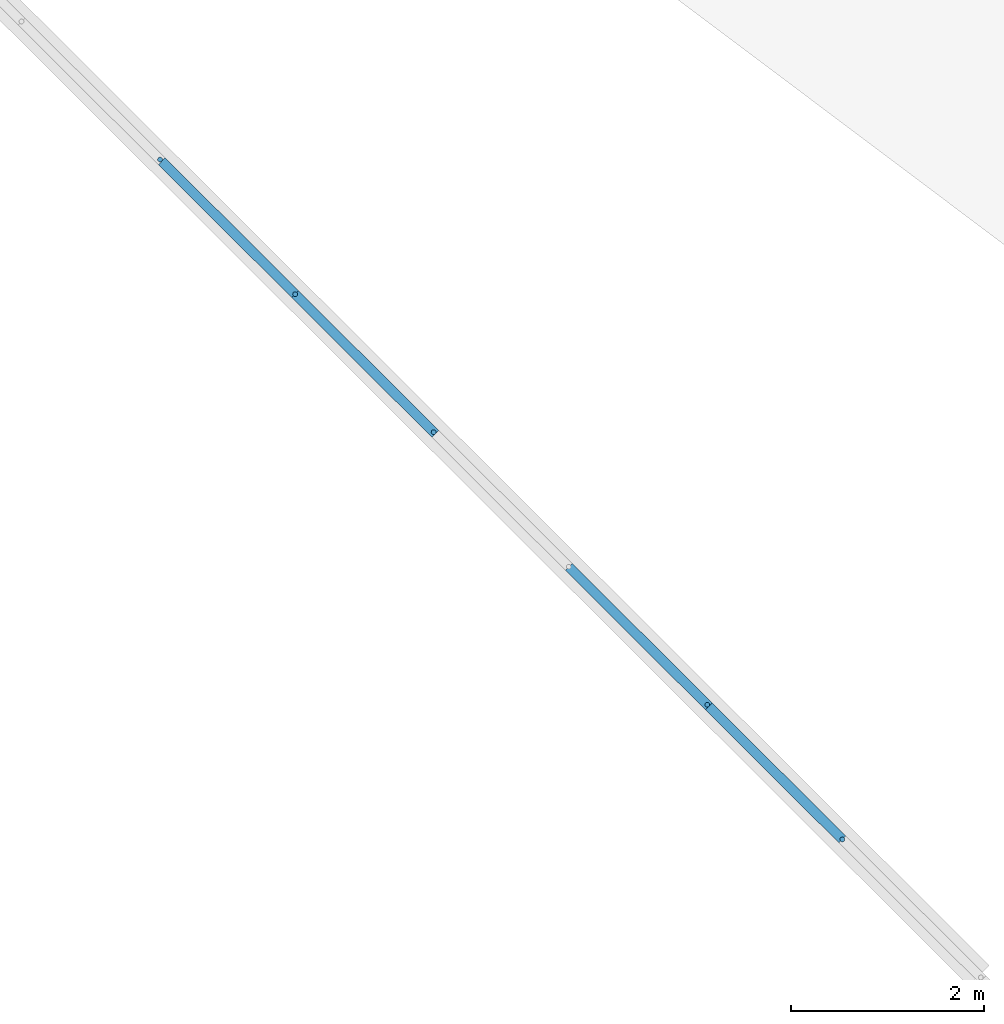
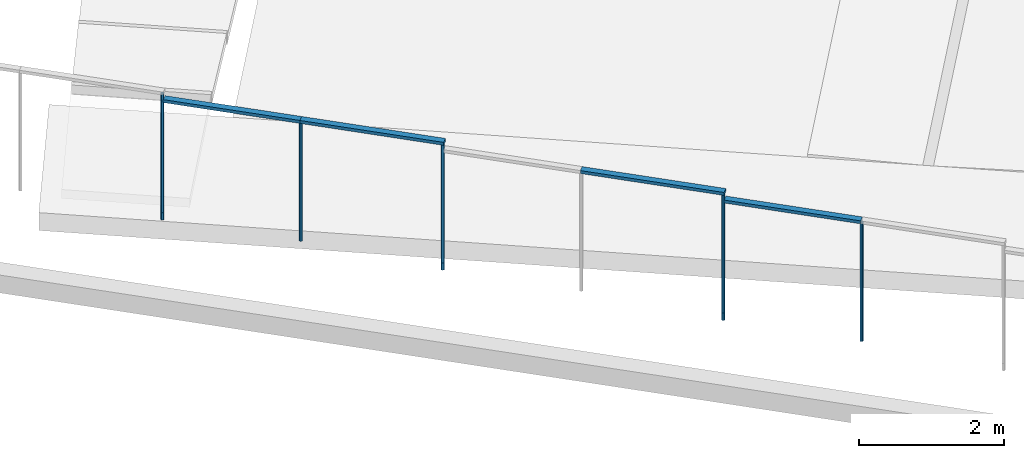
# One storey, part 11 of 33: 12 members, 4 elements without a shape of their own.
"""IFC2X3 building model written with IfcOpenShell, lengths in metres."""

from ifc_helpers import new_model, entity, si_unit, converted_unit, derived_unit, direction, frame, frame_2d, origin, origin_2d_with_axis, place, context, subcontext, project, spatial, rectangle, circle, extrude, source, transform, mapped, material, type_object, type_shapes, element, aggregate, save


model = new_model("IFC2X3")

# Units and contexts
model_context = context("Model", 3, precision=1e-05, world=origin(), true_north=direction((6.123031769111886e-17, 1.0)))
body_context = subcontext(model_context, "Body", "Model", "MODEL_VIEW")
ifc_project = project(units=[si_unit("LENGTHUNIT", "METRE"), si_unit("AREAUNIT", "SQUARE_METRE"), si_unit("VOLUMEUNIT", "CUBIC_METRE"), converted_unit("PLANEANGLEUNIT", "DEGREE", entity("IfcRatioMeasure", 0.017453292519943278), si_unit("PLANEANGLEUNIT", "RADIAN"), dimensions=[0, 0, 0, 0, 0, 0, 0]), si_unit("MASSUNIT", "GRAM", prefix="KILO"), derived_unit("MASSDENSITYUNIT", [(si_unit("MASSUNIT", "GRAM", prefix="KILO"), 1), (si_unit("LENGTHUNIT", "METRE"), -3)]), derived_unit("IONCONCENTRATIONUNIT", [(si_unit("MASSUNIT", "GRAM", prefix="KILO"), 1), (si_unit("LENGTHUNIT", "METRE"), -3)]), derived_unit("MOMENTOFINERTIAUNIT", [(si_unit("LENGTHUNIT", "METRE"), 4)]), si_unit("TIMEUNIT", "SECOND"), si_unit("FREQUENCYUNIT", "HERTZ"), si_unit("THERMODYNAMICTEMPERATUREUNIT", "DEGREE_CELSIUS"), derived_unit("THERMALTRANSMITTANCEUNIT", [(si_unit("MASSUNIT", "GRAM", prefix="KILO"), 1), (si_unit("THERMODYNAMICTEMPERATUREUNIT", "KELVIN"), -1), (si_unit("TIMEUNIT", "SECOND"), -3)]), derived_unit("THERMALCONDUCTANCEUNIT", [(si_unit("MASSUNIT", "GRAM", prefix="KILO"), 1), (si_unit("THERMODYNAMICTEMPERATUREUNIT", "KELVIN"), -1), (si_unit("TIMEUNIT", "SECOND"), -3), (si_unit("LENGTHUNIT", "METRE"), 1)]), derived_unit("VOLUMETRICFLOWRATEUNIT", [(si_unit("LENGTHUNIT", "METRE"), 3), (si_unit("TIMEUNIT", "SECOND"), -1)]), derived_unit("MASSFLOWRATEUNIT", [(si_unit("MASSUNIT", "GRAM", prefix="KILO"), 1), (si_unit("TIMEUNIT", "SECOND"), -1)]), derived_unit("ROTATIONALFREQUENCYUNIT", [(si_unit("TIMEUNIT", "SECOND"), -1)]), si_unit("ELECTRICCURRENTUNIT", "AMPERE"), si_unit("ELECTRICVOLTAGEUNIT", "VOLT"), si_unit("POWERUNIT", "WATT"), si_unit("FORCEUNIT", "NEWTON", prefix="KILO"), si_unit("ILLUMINANCEUNIT", "LUX"), si_unit("LUMINOUSFLUXUNIT", "LUMEN"), si_unit("LUMINOUSINTENSITYUNIT", "CANDELA"), derived_unit("USERDEFINED", [(si_unit("MASSUNIT", "GRAM", prefix="KILO"), -1), (si_unit("LENGTHUNIT", "METRE"), -2), (si_unit("TIMEUNIT", "SECOND"), 3), (si_unit("LUMINOUSFLUXUNIT", "LUMEN"), 1)]), derived_unit("USERDEFINED", [(si_unit("MASSUNIT", "GRAM", prefix="KILO"), 1), (si_unit("TIMEUNIT", "SECOND"), -3), (si_unit("LENGTHUNIT", "METRE"), 3), (si_unit("ELECTRICCURRENTUNIT", "AMPERE"), -2)]), derived_unit("SOUNDPOWERUNIT", [(si_unit("MASSUNIT", "GRAM", prefix="KILO"), 1), (si_unit("TIMEUNIT", "SECOND"), -3), (si_unit("LENGTHUNIT", "METRE"), 2)]), derived_unit("SOUNDPRESSUREUNIT", [(si_unit("MASSUNIT", "GRAM", prefix="KILO"), 1), (si_unit("LENGTHUNIT", "METRE"), -1), (si_unit("TIMEUNIT", "SECOND"), -2)]), derived_unit("LINEARVELOCITYUNIT", [(si_unit("LENGTHUNIT", "METRE"), 1), (si_unit("TIMEUNIT", "SECOND"), -1)]), si_unit("PRESSUREUNIT", "PASCAL"), derived_unit("USERDEFINED", [(si_unit("MASSUNIT", "GRAM", prefix="KILO"), 1), (si_unit("LENGTHUNIT", "METRE"), -2), (si_unit("TIMEUNIT", "SECOND"), -2)]), derived_unit("LINEARFORCEUNIT", [(si_unit("MASSUNIT", "GRAM", prefix="KILO"), 1), (si_unit("TIMEUNIT", "SECOND"), -2)]), derived_unit("PLANARFORCEUNIT", [(si_unit("MASSUNIT", "GRAM", prefix="KILO"), 1), (si_unit("LENGTHUNIT", "METRE"), -1), (si_unit("TIMEUNIT", "SECOND"), -2)]), derived_unit("SPECIFICHEATCAPACITYUNIT", [(si_unit("THERMODYNAMICTEMPERATUREUNIT", "KELVIN"), -1), (si_unit("LENGTHUNIT", "METRE"), 2), (si_unit("TIMEUNIT", "SECOND"), -2)]), derived_unit("HEATINGVALUEUNIT", [(si_unit("LENGTHUNIT", "METRE"), 2), (si_unit("TIMEUNIT", "SECOND"), -2)]), derived_unit("VAPORPERMEABILITYUNIT", [(si_unit("LENGTHUNIT", "METRE"), -1), (si_unit("TIMEUNIT", "SECOND"), 1)]), derived_unit("DYNAMICVISCOSITYUNIT", [(si_unit("MASSUNIT", "GRAM", prefix="KILO"), 1), (si_unit("TIMEUNIT", "SECOND"), -1), (si_unit("LENGTHUNIT", "METRE"), -1)]), derived_unit("THERMALEXPANSIONCOEFFICIENTUNIT", [(si_unit("THERMODYNAMICTEMPERATUREUNIT", "KELVIN"), -1)]), derived_unit("MODULUSOFELASTICITYUNIT", [(si_unit("MASSUNIT", "GRAM", prefix="KILO"), 1), (si_unit("LENGTHUNIT", "METRE"), -1), (si_unit("TIMEUNIT", "SECOND"), -2)]), derived_unit("ISOTHERMALMOISTURECAPACITYUNIT", [(si_unit("LENGTHUNIT", "METRE"), 3), (si_unit("MASSUNIT", "GRAM", prefix="KILO"), -1)]), derived_unit("MOISTUREDIFFUSIVITYUNIT", [(si_unit("TIMEUNIT", "SECOND"), -1), (si_unit("LENGTHUNIT", "METRE"), 2)])], contexts=[model_context])

# Site, building, storey
site_placement = place(None, origin())
site = spatial("IfcSite", under=ifc_project, at=site_placement, Name="Superficie", CompositionType="ELEMENT")
building_placement = place(site_placement, frame((0.0, 0.0, 235.0), z_axis=(0.0, 0.0, 1.0), x_axis=(-0.7996477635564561, 0.6004693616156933, 0.0)))
building = spatial("IfcBuilding", under=site, at=building_placement, CompositionType="ELEMENT")
storey_placement = place(building_placement, origin())
storey = spatial("IfcBuildingStorey", under=building, at=storey_placement, Name="P0- Escola", CompositionType="ELEMENT", Elevation=0.0)

# Curtain wall, member
curtain_wall_type = type_object("IfcCurtainWallType", Name="Muro cortina:SER EXT- Tanca exterior", PredefinedType="NOTDEFINED")
curtain_wall_1_placement = place(storey_placement, origin())
curtain_wall_1 = element("IfcCurtainWall", 1, at=curtain_wall_1_placement, inside=storey, type_object=curtain_wall_type, Name="Muro cortina:SER EXT- Tanca exterior", ObjectType="Muro cortina:SER EXT- Tanca exterior")
ifc_material_1 = material(Name="Acero inoxidable")
member_type_1 = type_object("IfcMemberType", Name="Montante circular:Perfil Tanca exterior", PredefinedType="MULLION", material=ifc_material_1)
shared_shape_1 = source(origin(), body_context, "Body", "SweptSolid", [
    extrude(circle(Radius=0.025, at=frame_2d((-2.1149748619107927e-18, -4.0388614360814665e-17), x_axis=(1.0, 0.0))), frame((0.0, 0.0, -2.0), z_axis=(0.0, 0.0, 1.0), x_axis=(-1.0, 0.0, 0.0)), (0.0, 0.0, 1.0), 1.9999999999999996),
])
type_shapes(member_type_1, [shared_shape_1])
member_1_placement = place(curtain_wall_1_placement, frame((64.66120468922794, -11.612292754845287, 2.72), z_axis=(0.0, 0.0, -1.0), x_axis=(0.9902804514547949, -0.1390849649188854, 0.0)))
member_1 = element("IfcMember", 2, at=member_1_placement, type_object=member_type_1, material=ifc_material_1, Name="Montante circular:Perfil Tanca exterior", ObjectType="Montante circular:Perfil Tanca exterior", context=body_context, shape_type="MappedRepresentation", body=[
    mapped(shared_shape_1, transform((0.0, 0.0, 0.0), scale=1.0)),
])

curtain_wall_2_placement = place(storey_placement, origin())
curtain_wall_2 = element("IfcCurtainWall", 3, at=curtain_wall_2_placement, inside=storey, type_object=curtain_wall_type, Name="Muro cortina:SER EXT- Tanca exterior", ObjectType="Muro cortina:SER EXT- Tanca exterior")
member_2_placement = place(curtain_wall_2_placement, frame((72.58344826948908, -12.72497246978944, 2.97), z_axis=(0.0, 0.0, -1.0), x_axis=(0.9902804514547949, -0.13908496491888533, 0.0)))
member_2 = element("IfcMember", 4, at=member_2_placement, type_object=member_type_1, material=ifc_material_1, Name="Montante circular:Perfil Tanca exterior", ObjectType="Montante circular:Perfil Tanca exterior", context=body_context, shape_type="MappedRepresentation", body=[
    mapped(shared_shape_1, transform((0.0, 0.0, 0.0), scale=1.0)),
])

curtain_wall_3_placement = place(storey_placement, origin())
curtain_wall_3 = element("IfcCurtainWall", 5, at=curtain_wall_3_placement, inside=storey, type_object=curtain_wall_type, Name="Muro cortina:SER EXT- Tanca exterior", ObjectType="Muro cortina:SER EXT- Tanca exterior")
member_type_2 = type_object("IfcMemberType", Name="Montante circular:Perfil Tanca exterior", PredefinedType="MULLION", material=ifc_material_1)
shared_shape_2 = source(origin(), body_context, "Body", "SweptSolid", [
    extrude(circle(Radius=0.025, at=frame_2d((-1.304992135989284e-31, 4.038861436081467e-17), x_axis=(1.0, 0.0))), frame((-0.025, 0.0, -2.0)), (0.0, 0.0, 1.0), 1.9999999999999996),
])
type_shapes(member_type_2, [shared_shape_2])
member_3_placement = place(curtain_wall_3_placement, frame((66.59225156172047, -11.883508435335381, 4.847), z_axis=(0.0, 0.0, 1.0), x_axis=(-0.9902804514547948, 0.13908496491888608, 0.0)))
member_3 = element("IfcMember", 6, at=member_3_placement, type_object=member_type_2, material=ifc_material_1, Name="Montante circular:Perfil Tanca exterior", ObjectType="Montante circular:Perfil Tanca exterior", context=body_context, shape_type="MappedRepresentation", body=[
    mapped(shared_shape_2, transform((0.0, 0.0, 0.0), scale=1.0)),
])

# Member
member_4_placement = place(curtain_wall_2_placement, frame((70.55337335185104, -12.439848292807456, 4.97), z_axis=(0.0, 0.0, 1.0), x_axis=(-0.9902804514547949, 0.13908496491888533, 0.0)))
member_4 = element("IfcMember", 7, at=member_4_placement, type_object=member_type_2, material=ifc_material_1, Name="Montante circular:Perfil Tanca exterior", ObjectType="Montante circular:Perfil Tanca exterior", context=body_context, shape_type="MappedRepresentation", body=[
    mapped(shared_shape_2, transform((0.0, 0.0, 0.0), scale=1.0)),
])

# Curtain wall, member
curtain_wall_4_placement = place(storey_placement, origin())
curtain_wall_4 = element("IfcCurtainWall", 8, at=curtain_wall_4_placement, inside=storey, type_object=curtain_wall_type, Name="Muro cortina:SER EXT- Tanca exterior", ObjectType="Muro cortina:SER EXT- Tanca exterior")
member_5_placement = place(curtain_wall_4_placement, frame((74.51449514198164, -12.996188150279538, 5.095), z_axis=(0.0, 0.0, 1.0), x_axis=(-0.9902804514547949, 0.13908496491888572, 0.0)))
member_5 = element("IfcMember", 9, at=member_5_placement, type_object=member_type_2, material=ifc_material_1, Name="Montante circular:Perfil Tanca exterior", ObjectType="Montante circular:Perfil Tanca exterior", context=body_context, shape_type="MappedRepresentation", body=[
    mapped(shared_shape_2, transform((0.0, 0.0, 0.0), scale=1.0)),
])
aggregate(curtain_wall_4, [member_5])

# Member
ifc_material_2 = material(Name="_Formigó- Solera- T1- STR")
member_type_3 = type_object("IfcMemberType", Name="Montante rectangular:Montante rectangular 100x50", PredefinedType="MULLION", material=ifc_material_2)
shared_shape_3 = source(origin(), body_context, "Body", "SweptSolid", [
    extrude(rectangle(XDim=0.1, YDim=0.05000000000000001, at=origin_2d_with_axis()), frame((-0.025000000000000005, 0.0, -2.0499999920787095), z_axis=(0.0, 0.0, 1.0), x_axis=(0.0, -1.0, 0.0)), (0.0, 0.0, 1.0), 2.04999999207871),
])
type_shapes(member_type_3, [shared_shape_3])
member_6_placement = place(curtain_wall_3_placement, frame((68.62232647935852, -12.168632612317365, 4.897), z_axis=(0.9902804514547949, -0.13908496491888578, 0.0), x_axis=(0.0, 0.0, 1.0)))
member_6 = element("IfcMember", 10, at=member_6_placement, type_object=member_type_3, material=ifc_material_2, Name="Montante rectangular:Montante rectangular 100x50", ObjectType="Montante rectangular:Montante rectangular 100x50", context=body_context, shape_type="MappedRepresentation", body=[
    mapped(shared_shape_3, transform((0.0, 0.0, 0.0), scale=1.0)),
])

member_7_placement = place(curtain_wall_2_placement, frame((72.5834482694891, -12.724972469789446, 5.0200000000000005), z_axis=(0.9902804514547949, -0.13908496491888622, 0.0), x_axis=(0.0, 0.0, 1.0)))
member_7 = element("IfcMember", 11, at=member_7_placement, type_object=member_type_3, material=ifc_material_2, Name="Montante rectangular:Montante rectangular 100x50", ObjectType="Montante rectangular:Montante rectangular 100x50", context=body_context, shape_type="MappedRepresentation", body=[
    mapped(shared_shape_3, transform((0.0, 0.0, 0.0), scale=1.0)),
])

member_type_4 = type_object("IfcMemberType", Name="Montante circular:Perfil Tanca exterior", PredefinedType="MULLION", material=ifc_material_1)
shared_shape_4 = source(origin(), body_context, "Body", "SweptSolid", [
    extrude(circle(Radius=0.025, at=frame_2d((1.3661718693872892e-31, -4.46185640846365e-17), x_axis=(1.0, 0.0))), frame((-0.025, 0.0, -2.0499999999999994), z_axis=(0.0, 0.0, 1.0), x_axis=(-1.0, 0.0, 0.0)), (0.0, 0.0, 1.0), 2.0499999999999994),
])
type_shapes(member_type_4, [shared_shape_4])
member_8_placement = place(curtain_wall_1_placement, frame((66.64176558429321, -11.890462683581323, 2.72), z_axis=(0.0, 0.0, -1.0), x_axis=(0.9902804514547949, -0.1390849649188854, 0.0)))
member_8 = element("IfcMember", 12, at=member_8_placement, type_object=member_type_4, material=ifc_material_1, Name="Montante circular:Perfil Tanca exterior", ObjectType="Montante circular:Perfil Tanca exterior", context=body_context, shape_type="MappedRepresentation", body=[
    mapped(shared_shape_4, transform((0.0, 0.0, 0.0), scale=1.0)),
])

member_9_placement = place(curtain_wall_3_placement, frame((70.6028873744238, -12.446802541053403, 2.847), z_axis=(0.0, 0.0, -1.0), x_axis=(0.9902804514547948, -0.13908496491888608, 0.0)))
member_9 = element("IfcMember", 13, at=member_9_placement, type_object=member_type_4, material=ifc_material_1, Name="Montante circular:Perfil Tanca exterior", ObjectType="Montante circular:Perfil Tanca exterior", context=body_context, shape_type="MappedRepresentation", body=[
    mapped(shared_shape_4, transform((0.0, 0.0, 0.0), scale=1.0)),
])

aggregate(curtain_wall_3, [member_3, member_9, member_6])

member_10_placement = place(curtain_wall_2_placement, frame((74.56400916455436, -13.003142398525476, 2.97), z_axis=(0.0, 0.0, -1.0), x_axis=(0.9902804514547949, -0.13908496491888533, 0.0)))
member_10 = element("IfcMember", 14, at=member_10_placement, type_object=member_type_4, material=ifc_material_1, Name="Montante circular:Perfil Tanca exterior", ObjectType="Montante circular:Perfil Tanca exterior", context=body_context, shape_type="MappedRepresentation", body=[
    mapped(shared_shape_4, transform((0.0, 0.0, 0.0), scale=1.0)),
])

member_type_5 = type_object("IfcMemberType", Name="Montante rectangular:Montante rectangular 100x50", PredefinedType="MULLION", material=ifc_material_2)
shared_shape_5 = source(origin(), body_context, "Body", "SweptSolid", [
    extrude(rectangle(XDim=0.1, YDim=0.05000000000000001, at=origin_2d_with_axis()), frame((-0.025000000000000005, 0.0, -1.9499999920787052), z_axis=(0.0, 0.0, 1.0), x_axis=(0.0, -1.0, 0.0)), (0.0, 0.0, 1.0), 1.9499999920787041),
])
type_shapes(member_type_5, [shared_shape_5])
member_11_placement = place(curtain_wall_1_placement, frame((66.59225156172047, -11.88350843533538, 4.77), z_axis=(0.9902804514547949, -0.1390849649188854, 0.0), x_axis=(0.0, 0.0, 1.0)))
member_11 = element("IfcMember", 15, at=member_11_placement, type_object=member_type_5, material=ifc_material_2, Name="Montante rectangular:Montante rectangular 100x50", ObjectType="Montante rectangular:Montante rectangular 100x50", context=body_context, shape_type="MappedRepresentation", body=[
    mapped(shared_shape_5, transform((0.0, 0.0, 0.0), scale=1.0)),
])

aggregate(curtain_wall_1, [member_1, member_8, member_11])

member_12_placement = place(curtain_wall_2_placement, frame((74.51449514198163, -12.996188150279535, 5.0200000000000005), z_axis=(0.990280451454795, -0.1390849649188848, 0.0), x_axis=(0.0, 0.0, 1.0)))
member_12 = element("IfcMember", 16, at=member_12_placement, type_object=member_type_5, material=ifc_material_2, Name="Montante rectangular:Montante rectangular 100x50", ObjectType="Montante rectangular:Montante rectangular 100x50", context=body_context, shape_type="MappedRepresentation", body=[
    mapped(shared_shape_5, transform((0.0, 0.0, 0.0), scale=1.0)),
])

aggregate(curtain_wall_2, [member_4, member_2, member_10, member_12, member_7])

save(model, "model.ifc")
